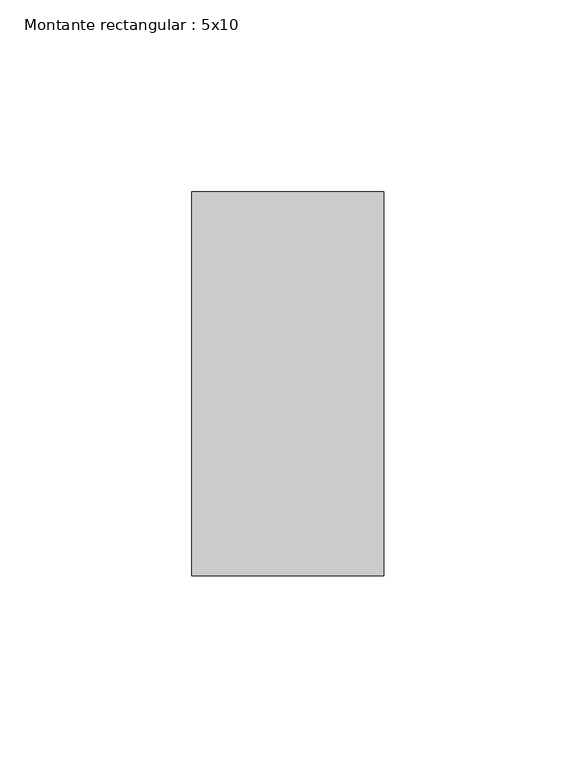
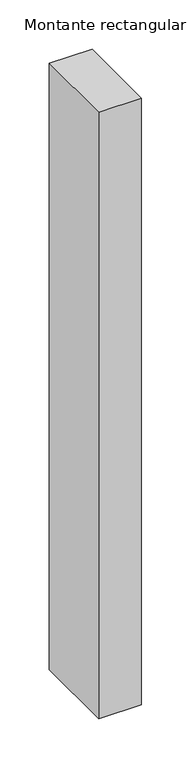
"""IFC4 building model written with IfcOpenShell, lengths in millimetres: member geometry, Montante rectangular : 5x10."""

from ifc_helpers import new_model, si_unit, frame, origin, place, context, project, spatial, polyline, outline, extrude, source, transform, mapped, element, save


def montante_rectangular_5x10_4e511d2b(model_context):
    return source(origin(), model_context, "Body", "SweptSolid", [
        extrude(outline(polyline([(0.0, 50.0), (0.0, -50.0), (-50.0, -50.0), (-50.0, 50.0), (0.0, 50.0)])), frame((0.0, 0.0, -750.0), z_axis=(0.0, 0.0, 1.0), x_axis=(1.0, 0.0, 0.0)), (0.0, 0.0, 1.0), 750.0),
    ])


if __name__ == "__main__":
    model = new_model("IFC4")
    model_context = context("Model", 3, world=origin())
    ifc_project = project(units=[si_unit("LENGTHUNIT", "METRE", prefix="MILLI")], contexts=[model_context])
    site = spatial("IfcSite", under=ifc_project)
    building = spatial("IfcBuilding", under=site)
    placement = place(None, origin())
    montante_rectangular_5x10_shape = montante_rectangular_5x10_4e511d2b(model_context)
    element("IfcMember", 1, ObjectType="Montante rectangular : 5x10", at=placement, inside=building, context=model_context, shape_type="MappedRepresentation", body=[
        mapped(montante_rectangular_5x10_shape, transform((0.0, 0.0, 0.0), x_axis=(1.0, 0.0, 0.0), y_axis=(0.0, 1.0, 0.0), z_axis=(0.0, 0.0, 1.0))),
    ])
    save(model, "model.ifc")
